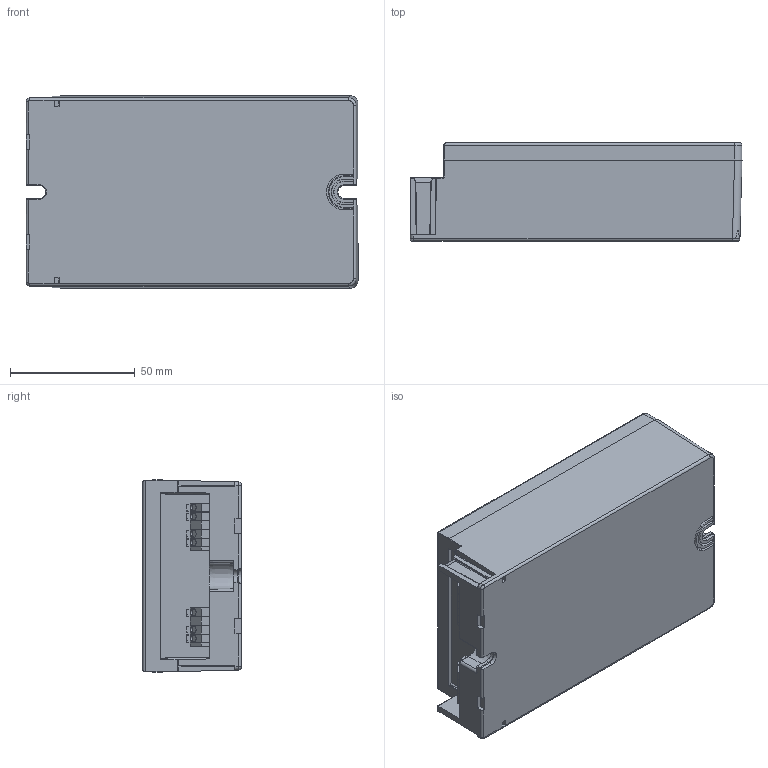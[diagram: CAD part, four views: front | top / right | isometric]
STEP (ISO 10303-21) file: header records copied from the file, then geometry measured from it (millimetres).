
FILE_DESCRIPTION (( 'STEP AP214' ), '1' );
FILE_NAME ('4222580swm000.step', '2021-08-23T13:24:39', ( 'Windows User' ), ( '' ), 'SwSTEP 2.0', 'SolidWorks 2020', '' );
FILE_SCHEMA (( 'AUTOMOTIVE_DESIGN' ));
Length unit declared in the file: millimetre
Products named in the file (1): 4222580swm000
Bounding box: 133.21 x 39.5 x 77.09 mm (x, y, z)
Volume: 366924.7 mm3; surface area: 43043.6 mm2
Topology: 5 solids, 18 shells, 801 faces, 1990 edges, 1229 vertices
Faces by surface type: plane 549, cylinder 166, bspline 37, cone 36, sphere 8, torus 5
Entity records: 33026 total; most frequent: CARTESIAN_POINT 6139, ORIENTED_EDGE 3960, DIRECTION 3535, EDGE_CURVE 1980, LINE 1509, VECTOR 1509, VERTEX_POINT 1229, AXIS2_PLACEMENT_3D 1013
